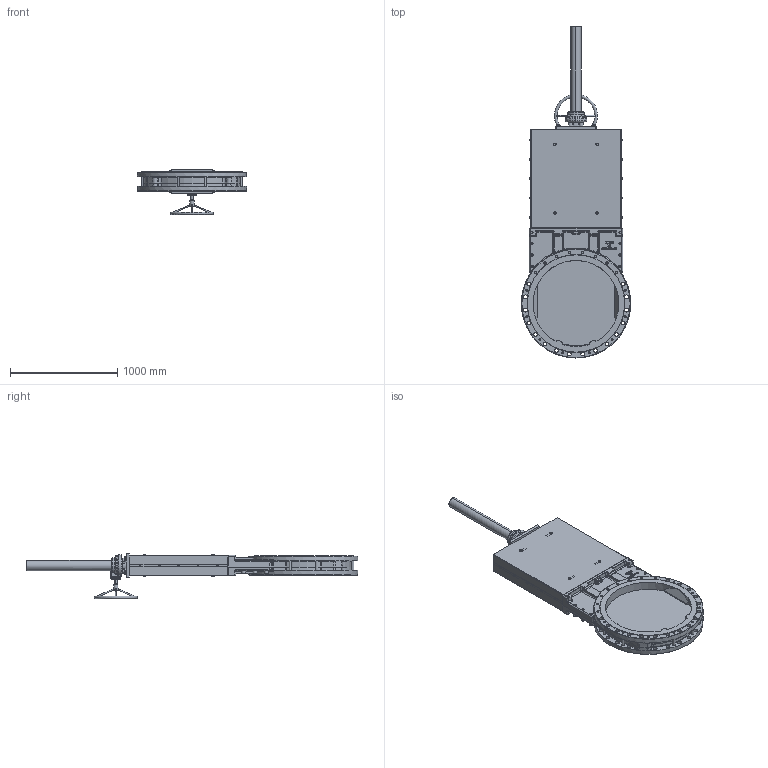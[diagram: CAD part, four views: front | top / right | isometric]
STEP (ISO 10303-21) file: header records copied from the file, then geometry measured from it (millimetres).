
FILE_DESCRIPTION(/* description */ (''),/* implementation_level */ '2;1');
FILE_NAME(/* name */ '明杆刀阀带齿轮箱DN800简图.stp',/* time_stamp */ '2025-12-22T17:57:06+08:00',/* author */ (''),/* organization */ (''),/* preprocessor_version */ 'ST-DEVELOPER v15',/* originating_system */ 'SIEMENS PLM Software NX 10.0',/* authorisation */ '');
FILE_SCHEMA (('AP203_CONFIGURATION_CONTROLLED_3D_DESIGN_OF_MECHANICAL_PARTS_AND_ASSEMBLIES_MIM_LF { 1 0 10303 403 2 1 2}'));
Products named in the file (1): 4D14B8F2lwlu
Bounding box: 1017.17 x 3089.11 x 423.47 mm (x, y, z)
Volume: 113011588.3 mm3; surface area: 9799485.3 mm2
Topology: 1 solids, 56 shells, 3180 faces, 7598 edges, 4840 vertices
Faces by surface type: plane 1488, cylinder 793, cone 359, extrusion 222, bspline 200, torus 94, sphere 24
Full cylindrical faces by diameter (mm): 7.323 x10, 8 x20, 8.4 x10, 9 x10, 10.2 x6, 11.053 x8, 11.4 x10, 12 x12, 13 x8, 14 x28, 16 x54, 17 x20, 17.2 x8, 18 x28, 19.053 x4, 20 x13, 21 x28, 21.5 x4, 22 x12, 24 x20, 24.889 x6, 26 x8, 27 x4, 29.63 x8, 30 x20, 33 x8, 35 x30, 35.556 x8, 37 x4, 38 x2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
Entity records: 106258 total; most frequent: CARTESIAN_POINT 29049, ORIENTED_EDGE 13026, DIRECTION 12671, EDGE_CURVE 6513, AXIS2_PLACEMENT_3D 4982, VERTEX_POINT 4514, EDGE_LOOP 4453, ADVANCED_FACE 3180
